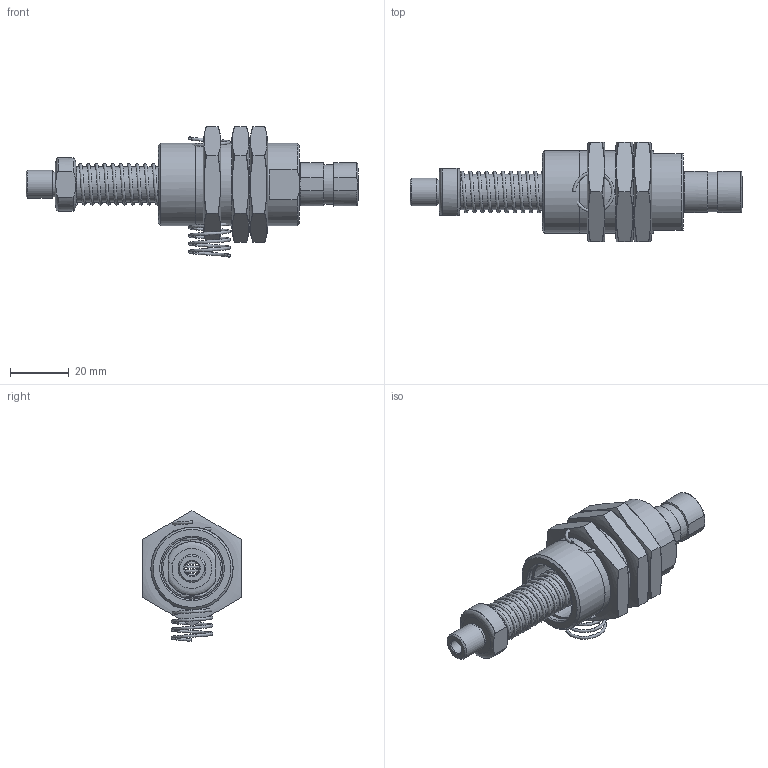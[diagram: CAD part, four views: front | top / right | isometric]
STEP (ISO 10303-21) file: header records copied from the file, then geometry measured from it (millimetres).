
FILE_DESCRIPTION( ( 'Unknown' ), '1' );
FILE_NAME( 'C:/Documents and Settings/Owner/官帕 拳搁/LEVEL SPRING HOMEPAGE/L18 Series/LBX1830T/LBX1830T.stp', 'Unknown', ( 'Unknown' ), ( 'Unknown' ), 'PSStep 10.0', 'Unknown', ' ' );
FILE_SCHEMA( ( 'AUTOMOTIVE_DESIGN { 1 0 10303 214 1 1 1 1 }' ) );
Length unit declared in the file: millimetre
Products named in the file (8): Assem1; SHA-30; NIPPLE; SLIDE BUSH; COVER; NUT; LBX UPPER; SPRING
Bounding box: 113 x 34 x 44.43 mm (x, y, z)
Surface area: 40576.1 mm2 (no closed solid volume)
Topology: 0 solids, 201 shells, 201 faces, 725 edges, 620 vertices
Faces by surface type: plane 80, cylinder 57, cone 34, torus 20, revolution 8, bspline 2
Full cylindrical faces by diameter (mm): 5 x4, 8.5 x4, 8.8 x4, 9.5 x2, 9.8 x8, 12 x2, 12.2 x6, 13.5 x2, 20.9 x2, 21 x4, 23 x2, 28 x5
Entity records: 6606 total; most frequent: CARTESIAN_POINT 3240, DIRECTION 540, ORIENTED_EDGE 276, EDGE_CURVE 276, VERTEX_POINT 276, AXIS2_PLACEMENT_3D 242, FACE_BOUND 166, EDGE_LOOP 166
